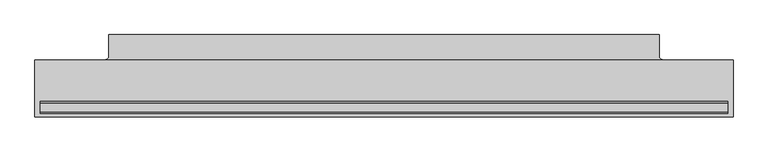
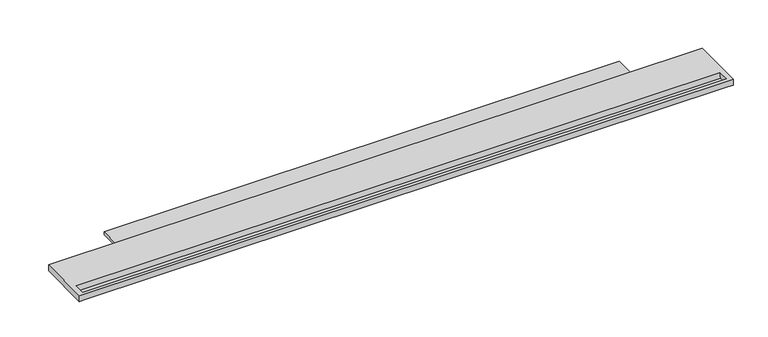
"""IFC4 building model written with IfcOpenShell, lengths in millimetres: light fixture geometry, Lighting-Horizontal-Teknion-Altos_Landscape-R2015 : Ambient Light."""

from ifc_helpers import new_model, si_unit, frame, origin, place, context, project, spatial, polyline, circle_curve, source, transform, mapped, element, save
from ifc_brep_helpers import plane_surface, revolved_surface, advanced_brep


def light_fixture_f7112a97(model_context):
    return source(origin(), model_context, "Body", "AdvancedBrep", [
        advanced_brep(
        [(487.9975, 29.2199219, 2.5146), (487.9975, 29.2199219, -2.4854), (481.6475, 35.5699219, -2.4854), (481.6475, 35.5699219, 2.5146), (481.6475, 73.2394219, -2.4854), (481.6475, 73.2394219, 2.5146), (-481.6475, 35.5699219, -2.4854), (-481.6475, 35.5699219, 2.5146), (-481.6475, 73.2394219, 2.5146), (-481.6475, 73.2394219, -2.4854), (-487.9975, 29.2199219, -2.4854), (-487.9975, 29.2199219, 2.5146), (611.1875, -70.7605781, 9.5146), (611.1875, -70.7605781, -2.4854), (611.1875, 29.2199219, -2.4854), (611.1875, 29.2199219, 9.5146), (-611.1875, -70.7605781, -2.4854), (-611.1875, -70.7605781, 9.5146), (-611.1875, 29.2199219, 9.5146), (-611.1875, 29.2199219, -2.4854), (601.6625, -70.7605781, -2.4854), (-601.6625, -70.7605781, -2.4854), (-601.6625, 29.2199219, -2.4854), (601.6625, 29.2199219, -2.4854), (601.6625, -44.1493944, 9.5146), (601.6625, -64.6562804, 9.5146), (-601.6625, -64.6562804, 9.5146), (-601.6625, -44.1493944, 9.5146), (601.6625, -46.719563, -0.0773999), (-601.6625, -46.719563, -0.0773999), (-601.6625, -62.0861118, -0.0773999), (601.6625, -62.0861118, -0.0773999)],
        [
            (0, 1),
            (1, 2, circle_curve(frame((487.9975, 35.5699219, -2.4854), z_axis=(0.0, 0.0, -1.0), x_axis=(-1.0, 0.0, 0.0)), 6.35)),
            (2, 3),
            (3, 0, circle_curve(frame((487.9975, 35.5699219, 2.5146), z_axis=(0.0, 0.0, 1.0), x_axis=(-1.0, 0.0, 0.0)), 6.35)),
            (2, 4),
            (4, 5),
            (5, 3),
            (6, 7),
            (7, 8),
            (8, 9),
            (9, 6),
            (10, 11),
            (11, 7, circle_curve(frame((-487.9975, 35.5699219, 2.5146), z_axis=(0.0, 0.0, 1.0), x_axis=(-1.0, 0.0, 0.0)), 6.35)),
            (6, 10, circle_curve(frame((-487.9975, 35.5699219, -2.4854), z_axis=(0.0, 0.0, -1.0), x_axis=(-1.0, 0.0, 0.0)), 6.35)),
            (12, 13),
            (13, 14),
            (14, 15),
            (15, 12),
            (16, 17),
            (17, 18),
            (18, 19),
            (19, 16),
            (13, 20),
            (20, 21),
            (21, 16),
            (19, 22),
            (22, 10),
            (9, 4),
            (1, 23),
            (23, 14),
            (8, 5),
            (11, 0),
            (18, 15),
            (17, 12),
            (24, 25),
            (25, 26),
            (26, 27),
            (27, 24),
            (28, 29),
            (29, 30),
            (30, 31),
            (31, 28),
            (30, 26),
            (25, 31),
            (29, 27),
            (24, 28),
        ],
        [
            revolved_surface(polyline([(481.6475, 35.5699219, -2.4854000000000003), (481.6475, 35.5699219, 2.5145999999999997)]), (487.9975, 35.5699219, -8.9101779), (0.0, 0.0, -1.0)),
            plane_surface(frame((481.6475, 35.5699219, -8.9101779), z_axis=(1.0, 0.0, 0.0), x_axis=(0.0, 0.0, 1.0))),
            plane_surface(frame((-481.6475, 86.3699219, -8.9101779), z_axis=(-1.0, 0.0, 0.0), x_axis=(0.0, 0.0, 1.0))),
            revolved_surface(polyline([(-494.3475, 35.5699219, -2.4854000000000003), (-494.3475, 35.5699219, 2.5145999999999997)]), (-487.9975, 35.5699219, -8.9101779), (0.0, 0.0, -1.0)),
            plane_surface(frame((611.1875, 29.2199219, 0.0), z_axis=(1.0, 0.0, 0.0), x_axis=(0.0, 0.0, -1.0))),
            plane_surface(frame((-611.1875, 29.2199219, 0.0), z_axis=(-1.0, 0.0, 0.0), x_axis=(0.0, 0.0, -1.0))),
            plane_surface(frame((611.1875, -70.7605781, -2.4854), z_axis=(0.0, 0.0, -1.0), x_axis=(-1.0, 0.0, 0.0))),
            plane_surface(frame((611.1875, 73.2394219, -2.4854), z_axis=(0.0, 1.0, 0.0), x_axis=(-1.0, 0.0, 0.0))),
            plane_surface(frame((611.1875, 73.2394219, 2.5146), z_axis=(0.0, 0.0, 1.0), x_axis=(-1.0, 0.0, 0.0))),
            plane_surface(frame((611.1875, 29.2199219, 2.5146), z_axis=(0.0, 1.0, 0.0), x_axis=(-1.0, 0.0, 0.0))),
            plane_surface(frame((611.1875, 29.2199219, 9.5146), z_axis=(0.0, 0.0, 1.0), x_axis=(-1.0, 0.0, 0.0))),
            plane_surface(frame((611.1875, -46.719563, -0.0773999), z_axis=(0.0, 0.0, 1.0), x_axis=(-1.0, 0.0, 0.0))),
            plane_surface(frame((611.1875, -62.0861118, -0.0773999), z_axis=(0.0, 0.9659258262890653, 0.25881904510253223), x_axis=(-1.0, 0.0, 0.0))),
            plane_surface(frame((611.1875, -70.7605781, 9.5146), z_axis=(0.0, -1.0, 0.0), x_axis=(-1.0, 0.0, 0.0))),
            plane_surface(frame((-601.6625, -70.7605781, 9.5146), z_axis=(1.0, 0.0, 0.0), x_axis=(0.0, 0.0, -1.0))),
            plane_surface(frame((601.6625, 29.2199219, 9.5146), z_axis=(-1.0, 0.0, 0.0), x_axis=(0.0, 0.0, -1.0))),
            plane_surface(frame((611.1875, -44.1493944, 9.5146), z_axis=(0.0, -0.9659258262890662, 0.2588190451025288), x_axis=(-1.0, 0.0, 0.0))),
        ],
        [
            (0, [[1, 2, 3, 4]]),
            (1, [[-3, 5, 6, 7]]),
            (2, [[8, 9, 10, 11]]),
            (3, [[12, 13, -8, 14]]),
            (4, [[15, 16, 17, 18]]),
            (5, [[19, 20, 21, 22]]),
            (6, [[-16, 23, 24, 25, -22, 26, 27, -14, -11, 28, -5, -2, 29, 30]]),
            (7, [[-28, -10, 31, -6]]),
            (8, [[-31, -9, -13, 32, -4, -7]]),
            (9, [[-32, -12, -27, -26, -21, 33, -17, -30, -29, -1]]),
            (10, [[-18, -33, -20, 34], [35, 36, 37, 38]]),
            (11, [[39, 40, 41, 42]]),
            (12, [[-41, 43, -36, 44]]),
            (13, [[-15, -34, -19, -25, -24, -23]]),
            (14, [[-37, -43, -40, 45]]),
            (15, [[-35, 46, -42, -44]]),
            (16, [[-39, -46, -38, -45]]),
        ],
    ),
    ])


if __name__ == "__main__":
    model = new_model("IFC4")
    model_context = context("Model", 3, world=origin())
    ifc_project = project(units=[si_unit("LENGTHUNIT", "METRE", prefix="MILLI")], contexts=[model_context])
    site = spatial("IfcSite", under=ifc_project)
    building = spatial("IfcBuilding", under=site)
    placement = place(None, origin())
    light_fixture_shape = light_fixture_f7112a97(model_context)
    element("IfcLightFixture", 1, ObjectType="Lighting-Horizontal-Teknion-Altos_Landscape-R2015 : Ambient Light", at=placement, inside=building, context=model_context, shape_type="MappedRepresentation", body=[
        mapped(light_fixture_shape, transform((0.0, 0.0, 0.0), x_axis=(1.0, 0.0, 0.0), y_axis=(0.0, 1.0, 0.0), z_axis=(0.0, 0.0, 1.0))),
    ])
    save(model, "model.ifc")
